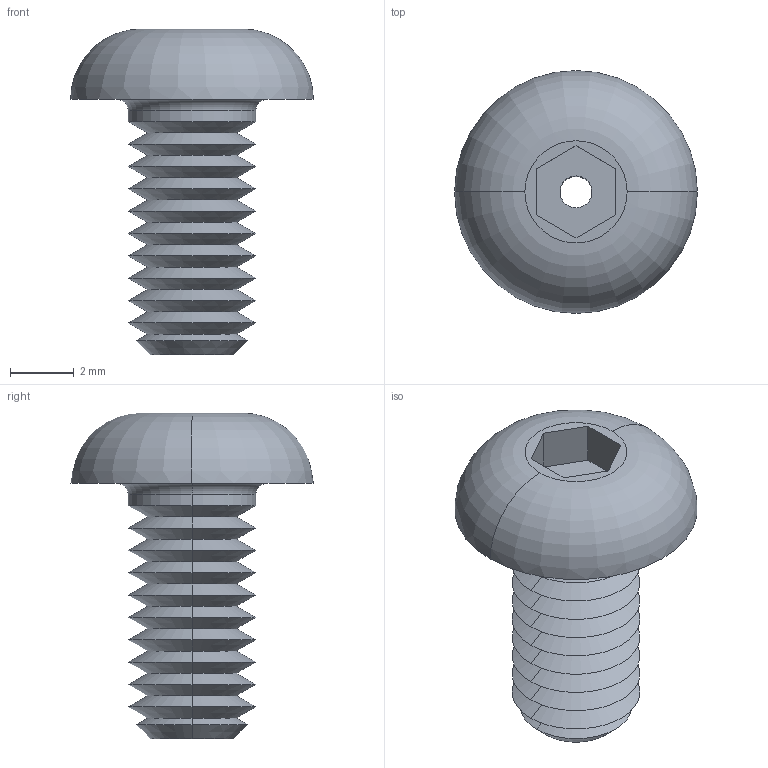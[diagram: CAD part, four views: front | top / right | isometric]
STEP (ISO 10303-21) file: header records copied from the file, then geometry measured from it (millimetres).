
FILE_DESCRIPTION (( 'STEP AP203' ), '1' );
FILE_NAME ('P0094.040-008-A2.step', '2019-07-12T16:52:06', ( '' ), ( '' ), 'SwSTEP 2.0', 'SolidWorks 2017', '' );
FILE_SCHEMA (( 'CONFIG_CONTROL_DESIGN' ));
Length unit declared in the file: millimetre
Products named in the file (1): P0094.040-008-A2
Bounding box: 7.6 x 7.6 x 10.2 mm (x, y, z)
Volume: 139 mm3; surface area: 307.8 mm2
Topology: 1 solids, 1 shells, 60 faces, 124 edges, 68 vertices
Faces by surface type: cone 42, plane 10, cylinder 4, torus 4
Entity records: 1637 total; most frequent: DIRECTION 306, CARTESIAN_POINT 253, ORIENTED_EDGE 248, EDGE_CURVE 124, AXIS2_PLACEMENT_3D 121, VERTEX_POINT 68, LINE 64, EDGE_LOOP 64
